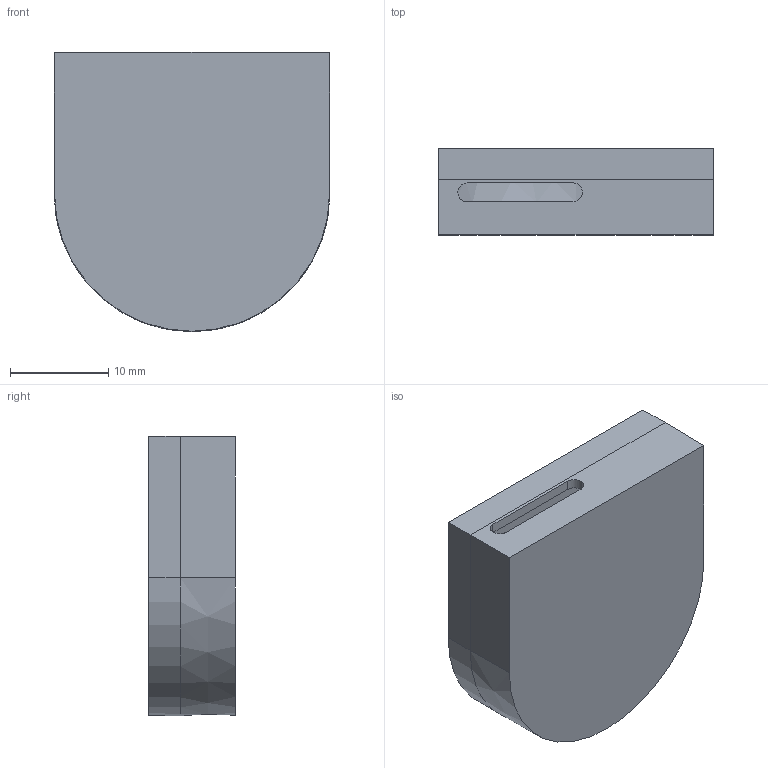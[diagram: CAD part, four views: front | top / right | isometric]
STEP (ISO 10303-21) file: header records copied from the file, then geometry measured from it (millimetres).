
FILE_DESCRIPTION (( 'STEP AP203' ), '1' );
FILE_NAME ('90298 REV A.STEP', '2015-11-06T18:35:21', ( '' ), ( '' ), 'SwSTEP 2.0', 'SolidWorks 2015', '' );
FILE_SCHEMA (( 'CONFIG_CONTROL_DESIGN' ));
Length unit declared in the file: inch
Products named in the file (1): 90298 REV A
Bounding box: 28.09 x 8.79 x 28.45 mm (x, y, z)
Volume: 2078.3 mm3; surface area: 4214.3 mm2
Topology: 1 solids, 1 shells, 275 faces, 727 edges, 482 vertices
Faces by surface type: plane 160, bspline 108, cone 4, cylinder 3
Entity records: 14122 total; most frequent: CARTESIAN_POINT 7979, ORIENTED_EDGE 1454, DIRECTION 847, EDGE_CURVE 727, VECTOR 499, LINE 499, VERTEX_POINT 482, EDGE_LOOP 303
